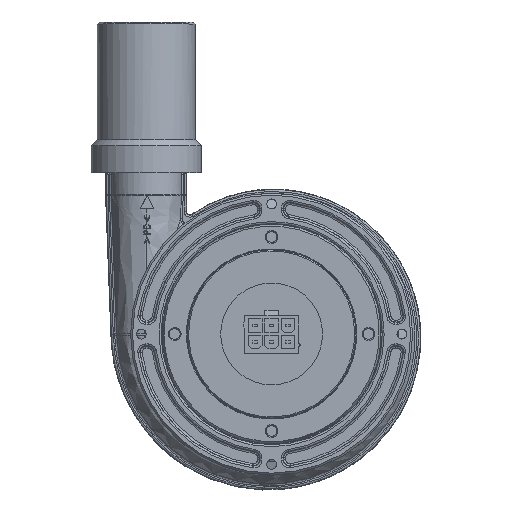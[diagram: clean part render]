
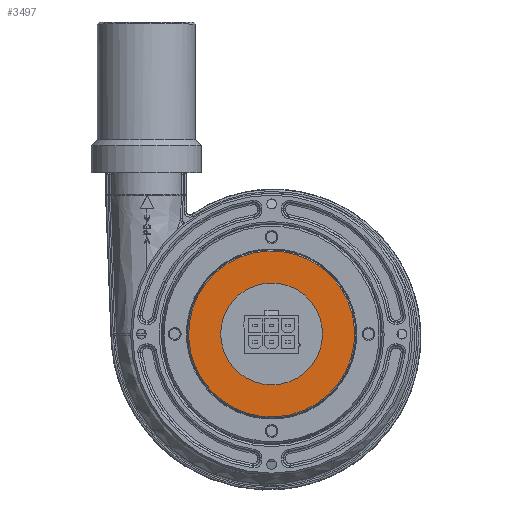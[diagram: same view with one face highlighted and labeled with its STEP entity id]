
A CAD part, top view. The second image highlights one B-rep face of the part: STEP entity #3497.
In plain terms, the highlighted planar face has unit normal (0, 0, 1).
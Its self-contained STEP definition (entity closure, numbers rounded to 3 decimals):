
#149=FACE_BOUND('',#5410,.T.);
#150=FACE_BOUND('',#5411,.T.);
#1054=PLANE('',#16142);
#3497=ADVANCED_FACE('',(#149,#150),#1054,.F.);
#5410=EDGE_LOOP('',(#9851));
#5411=EDGE_LOOP('',(#9852));
#5927=CIRCLE('',#16135,13.);
#5930=CIRCLE('',#16140,21.2);
#9851=ORIENTED_EDGE('',*,*,#13882,.T.);
#9852=ORIENTED_EDGE('',*,*,#13879,.F.);
#11752=VERTEX_POINT('',#34435);
#11755=VERTEX_POINT('',#34443);
#13879=EDGE_CURVE('',#11752,#11752,#5927,.T.);
#13882=EDGE_CURVE('',#11755,#11755,#5930,.T.);
#16135=AXIS2_PLACEMENT_3D('',#34434,#18774,#18775);
#16140=AXIS2_PLACEMENT_3D('',#34442,#18784,#18785);
#16142=AXIS2_PLACEMENT_3D('',#34445,#18788,#18789);
#18774=DIRECTION('',(0.,0.,1.));
#18775=DIRECTION('',(0.,-1.,0.));
#18784=DIRECTION('',(0.,0.,1.));
#18785=DIRECTION('',(0.3,0.954,0.));
#18788=DIRECTION('',(0.,0.,-1.));
#18789=DIRECTION('',(0.3,0.954,0.));
#34434=CARTESIAN_POINT('',(0.,0.,46.75));
#34435=CARTESIAN_POINT('',(0.,-13.,46.75));
#34442=CARTESIAN_POINT('',(0.,0.,
46.75));
#34443=CARTESIAN_POINT('',(6.367,20.221,46.75));
#34445=CARTESIAN_POINT('',(-6.457,-20.507,46.75));
